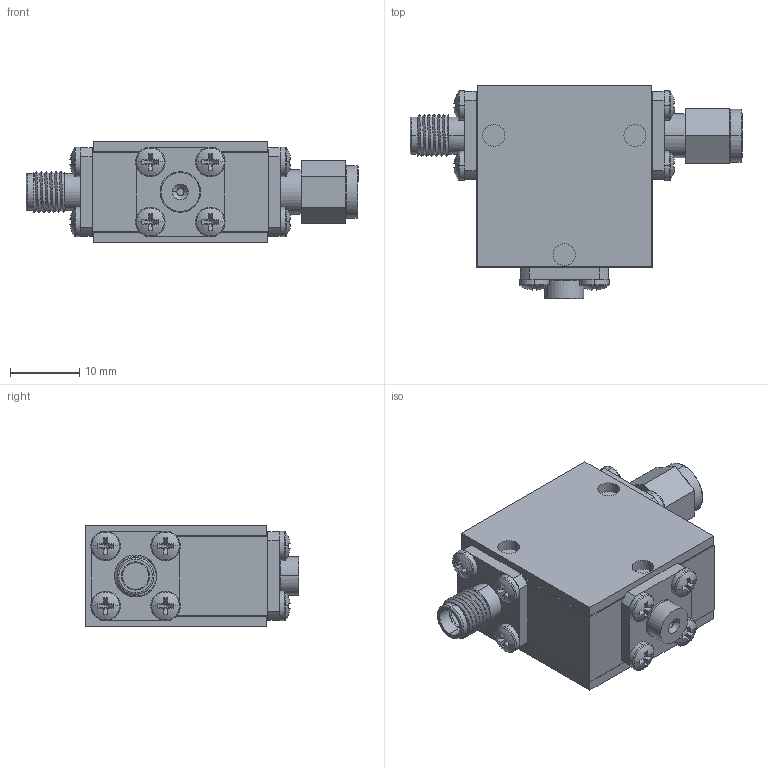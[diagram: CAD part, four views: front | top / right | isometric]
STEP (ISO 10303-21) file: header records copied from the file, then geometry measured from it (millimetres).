
FILE_DESCRIPTION (( 'STEP AP214' ), '1' );
FILE_NAME ('Package 3-2 Iso FM - Cryo Shielded.STEP', '2023-12-19T23:50:02', ( '' ), ( '' ), 'SwSTEP 2.0', 'SolidWorks 2016', '' );
FILE_SCHEMA (( 'AUTOMOTIVE_DESIGN' ));
Length unit declared in the file: inch
Products named in the file (7): pan cross head_ai_CR-PHMS 0.086-56x0.125x0.125-N; Package Size 3; Package 3-2 Iso FM - Cryo Shielded; WR050; 030013-1A Same Base thickness as connectors; Delta SMA-Female 0.500 flange Threaded; Delta SMA-Male
Assembly tree (17 placements, depth 2):
  Package 3-2 Iso FM - Cryo Shielded
    Package Size 3
    Delta SMA-Female 0.500 flange Threaded
    pan cross head_ai_CR-PHMS 0.086-56x0.125x0.125-N  x12
    030013-1A Same Base thickness as connectors
    Delta SMA-Male
    WR050
Bounding box: 47.8 x 30.73 x 14.58 mm (x, y, z)
Volume: 10944 mm3; surface area: 8762.1 mm2
Topology: 17 solids, 17 shells, 430 faces, 985 edges, 609 vertices
Faces by surface type: plane 237, cylinder 128, torus 34, sphere 24, cone 4, bspline 3
Entity records: 6509 total; most frequent: CARTESIAN_POINT 1650, DIRECTION 1039, ORIENTED_EDGE 870, EDGE_CURVE 435, AXIS2_PLACEMENT_3D 418, VERTEX_POINT 279, EDGE_LOOP 236, CIRCLE 224
